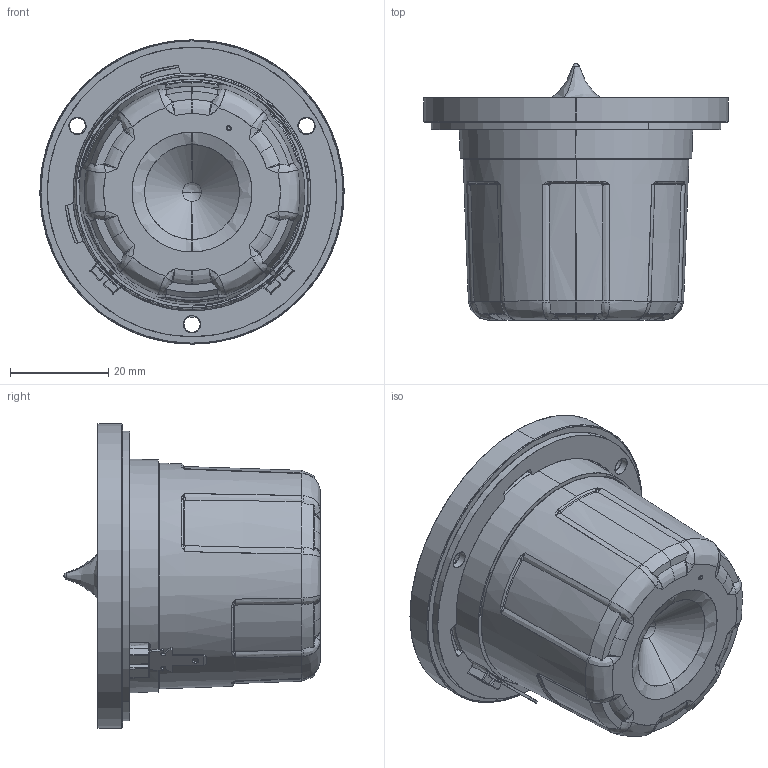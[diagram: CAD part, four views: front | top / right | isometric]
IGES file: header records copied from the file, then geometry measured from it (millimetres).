
Start section: SolidWorks IGES file using analytic representation for surfaces
Global section: file name: W:\TT\R30\R3004-602200.IGS; native system: SolidWorks 2022; preprocessor: SolidWorks 2022; author: jsn; date: 231103.104713; units: millimetre
Bounding box: 62 x 52.26 x 62 mm (x, y, z)
Surface area: 15744.2 mm2 (no closed solid volume)
Topology: 0 solids, 0 shells, 598 faces, 6306 edges, 6270 vertices
Faces by surface type: bspline 386, revolution 212
